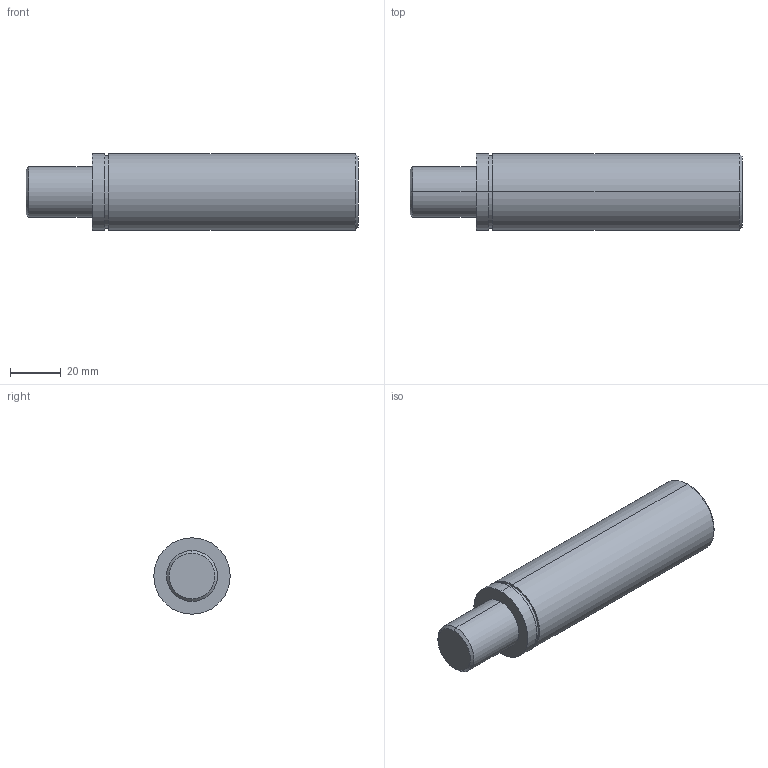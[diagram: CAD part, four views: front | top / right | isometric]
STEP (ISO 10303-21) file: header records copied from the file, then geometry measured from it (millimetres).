
FILE_DESCRIPTION (( 'STEP AP203' ), '1' );
FILE_NAME ('084.812.003.STEP', '2013-01-29T14:04:03', ( 'Alusic' ), ( 'Alusic' ), 'SwSTEP 2.0', 'SolidWorks 2011', '' );
FILE_SCHEMA (( 'CONFIG_CONTROL_DESIGN' ));
Length unit declared in the file: millimetre
Products named in the file (1): 084.812.003
Bounding box: 130.5 x 30 x 30 mm (x, y, z)
Volume: 81855.3 mm3; surface area: 12923.5 mm2
Topology: 1 solids, 1 shells, 17 faces, 32 edges, 20 vertices
Faces by surface type: cylinder 8, plane 5, cone 4
Entity records: 511 total; most frequent: DIRECTION 88, CARTESIAN_POINT 70, ORIENTED_EDGE 64, AXIS2_PLACEMENT_3D 38, EDGE_CURVE 32, VERTEX_POINT 20, EDGE_LOOP 20, CIRCLE 20
